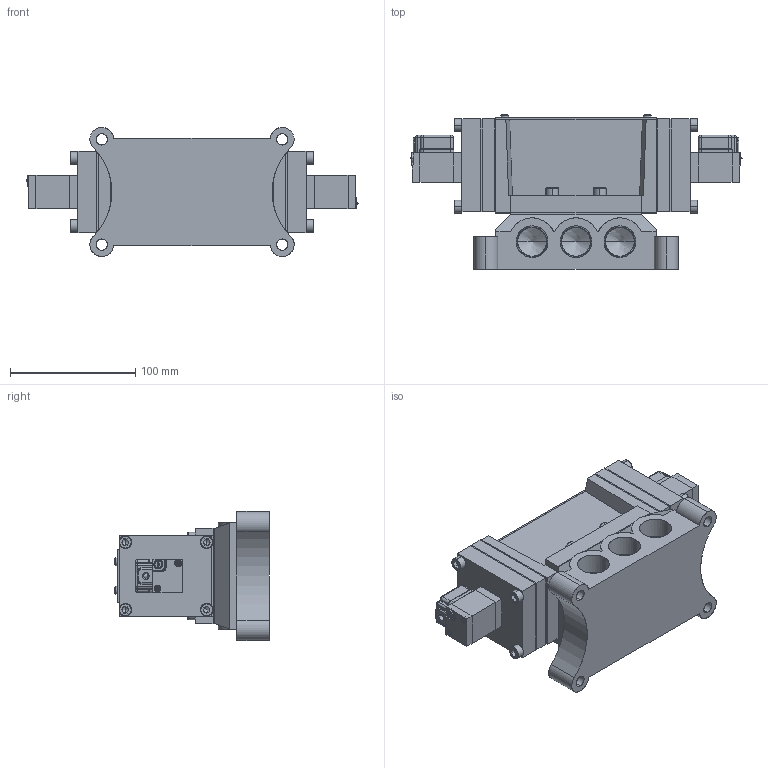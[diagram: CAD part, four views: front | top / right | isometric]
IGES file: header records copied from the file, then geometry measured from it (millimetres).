
Start section: SolidWorks IGES file using analytic representation for surfaces
Global section: file name: C:\Users\Toshiba\Desktop\PMD3415#-06-#G#.IGS; native system: SolidWorks 2014; preprocessor: SolidWorks 2014; author: Toshiba; date: 160122.081717; units: millimetre
Bounding box: 264.95 x 123.55 x 103 mm (x, y, z)
Surface area: 263863.7 mm2 (no closed solid volume)
Topology: 0 solids, 0 shells, 1126 faces, 11931 edges, 11879 vertices
Faces by surface type: bspline 712, revolution 414
